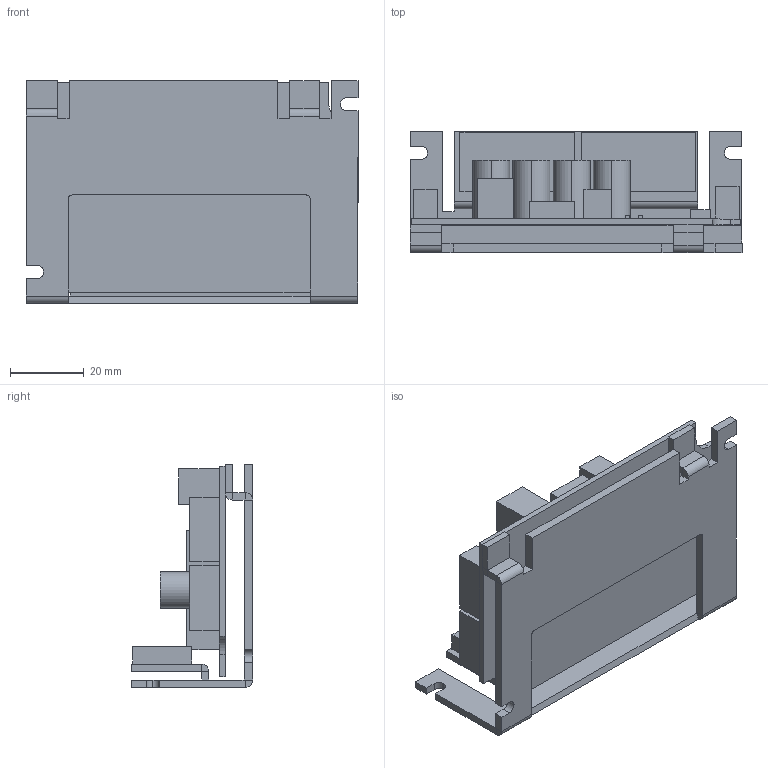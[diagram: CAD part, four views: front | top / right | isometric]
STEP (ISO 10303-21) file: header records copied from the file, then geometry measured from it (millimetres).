
FILE_DESCRIPTION (( 'STEP AP203' ), '1' );
FILE_NAME ('PDSA-UD.STEP', '2018-02-26T01:12:02', ( 'setup' ), ( 'Microsoft' ), 'SwSTEP 2.0', 'SolidWorks 2014', '' );
FILE_SCHEMA (( 'CONFIG_CONTROL_DESIGN' ));
Length unit declared in the file: millimetre
Products named in the file (1): PDSA-UD
Bounding box: 90 x 33 x 60.4 mm (x, y, z)
Volume: 36918.7 mm3; surface area: 31564.9 mm2
Topology: 3 solids, 3 shells, 180 faces, 446 edges, 282 vertices
Faces by surface type: plane 156, cylinder 24
Entity records: 5293 total; most frequent: CARTESIAN_POINT 909, ORIENTED_EDGE 892, DIRECTION 858, EDGE_CURVE 446, VECTOR 396, LINE 396, VERTEX_POINT 282, AXIS2_PLACEMENT_3D 231
